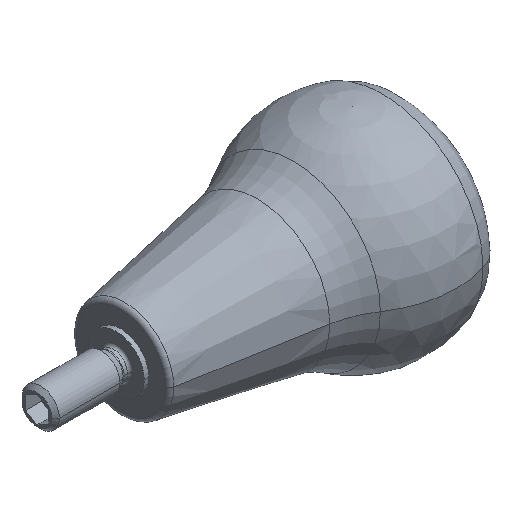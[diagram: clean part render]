
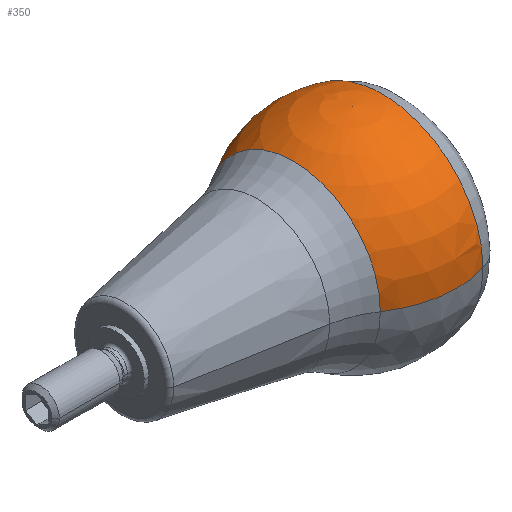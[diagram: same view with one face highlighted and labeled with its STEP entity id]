
A CAD part, isometric view. The second image highlights one B-rep face of the part: STEP entity #350.
In plain terms, the highlighted spherical face has radius 22.5 mm.
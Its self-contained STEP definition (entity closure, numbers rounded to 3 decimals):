
#54 = DIRECTION ( 'NONE',  ( 0., 1., 0. ) ) ;
#90 = EDGE_CURVE ( 'NONE', #521, #112, #788, .T. ) ;
#112 = VERTEX_POINT ( 'NONE', #151 ) ;
#129 = AXIS2_PLACEMENT_3D ( 'NONE', #838, #219, #707 ) ;
#141 = DIRECTION ( 'NONE',  ( 1., 0., 0. ) ) ;
#151 = CARTESIAN_POINT ( 'NONE',  ( 37.982, 18.64, 0. ) ) ;
#186 = CIRCLE ( 'NONE', #944, 22.5 ) ;
#219 = DIRECTION ( 'NONE',  ( -1., 0., 0. ) ) ;
#220 = CARTESIAN_POINT ( 'NONE',  ( 50.584, 0., 0. ) ) ;
#244 = DIRECTION ( 'NONE',  ( 0., 0., 1. ) ) ;
#275 = AXIS2_PLACEMENT_3D ( 'NONE', #1265, #369, #795 ) ;
#285 = EDGE_CURVE ( 'NONE', #355, #112, #1278, .T. ) ;
#313 = ORIENTED_EDGE ( 'NONE', *, *, #709, .F. ) ;
#320 = AXIS2_PLACEMENT_3D ( 'NONE', #220, #244, #141 ) ;
#350 = ADVANCED_FACE ( 'SPHERE_0', ( #797 ), #991, .T. ) ;
#355 = VERTEX_POINT ( 'NONE', #888 ) ;
#364 = CIRCLE ( 'NONE', #275, 21.538 ) ;
#369 = DIRECTION ( 'NONE',  ( -1., 0., 0. ) ) ;
#378 = VERTEX_POINT ( 'NONE', #1261 ) ;
#410 = DIRECTION ( 'NONE',  ( 0., 0., -1. ) ) ;
#482 = ORIENTED_EDGE ( 'NONE', *, *, #285, .T. ) ;
#521 = VERTEX_POINT ( 'NONE', #1032 ) ;
#523 = DIRECTION ( 'NONE',  ( 0., 1., 0. ) ) ;
#618 = ORIENTED_EDGE ( 'NONE', *, *, #628, .T. ) ;
#628 = EDGE_CURVE ( 'NONE', #378, #355, #364, .T. ) ;
#707 = DIRECTION ( 'NONE',  ( 0., -1., 0. ) ) ;
#709 = EDGE_CURVE ( 'NONE', #378, #521, #186, .T. ) ;
#788 = CIRCLE ( 'NONE', #129, 18.64 ) ;
#795 = DIRECTION ( 'NONE',  ( 0., -1., 0. ) ) ;
#797 = FACE_OUTER_BOUND ( 'NONE', #1207, .T. ) ;
#838 = CARTESIAN_POINT ( 'NONE',  ( 37.982, 0., 0. ) ) ;
#888 = CARTESIAN_POINT ( 'NONE',  ( 57.091, 21.538, 0. ) ) ;
#926 = ORIENTED_EDGE ( 'NONE', *, *, #90, .F. ) ;
#944 = AXIS2_PLACEMENT_3D ( 'NONE', #1183, #410, #523 ) ;
#991 = SPHERICAL_SURFACE ( 'NONE', #1142, 22.5 ) ;
#1032 = CARTESIAN_POINT ( 'NONE',  ( 37.982, -18.64, 0. ) ) ;
#1142 = AXIS2_PLACEMENT_3D ( 'NONE', #1267, #1179, #54 ) ;
#1179 = DIRECTION ( 'NONE',  ( 0., 0., -1. ) ) ;
#1183 = CARTESIAN_POINT ( 'NONE',  ( 50.584, 0., 0. ) ) ;
#1207 = EDGE_LOOP ( 'NONE', ( #313, #618, #482, #926 ) ) ;
#1261 = CARTESIAN_POINT ( 'NONE',  ( 57.091, -21.538, 0. ) ) ;
#1265 = CARTESIAN_POINT ( 'NONE',  ( 57.091, 0., 0. ) ) ;
#1267 = CARTESIAN_POINT ( 'NONE',  ( 50.584, 0., 0. ) ) ;
#1278 = CIRCLE ( 'NONE', #320, 22.5 ) ;
